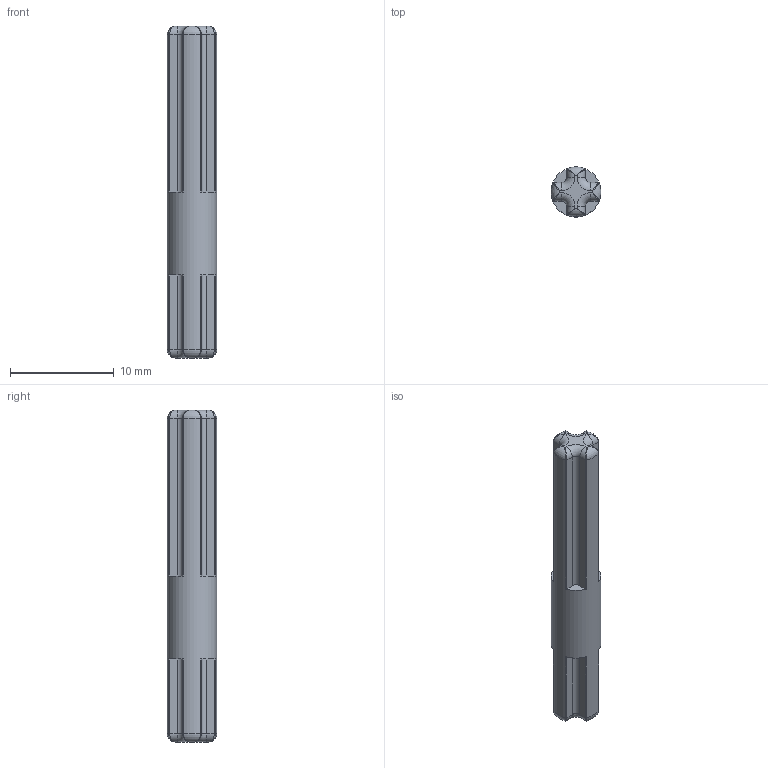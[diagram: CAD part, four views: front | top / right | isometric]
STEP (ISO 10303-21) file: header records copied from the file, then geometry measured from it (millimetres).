
FILE_DESCRIPTION(/* description */ ('Unknown'),/* implementation_level */ '2;1');
FILE_NAME(/* name */ 'Sand_4666999_JC',/* time_stamp */ '2025-07-22T00:04:57+02:00',/* author */ ('Unknown'),/* organization */ ('Unknown'),/* preprocessor_version */ 'ST-DEVELOPER v19.4',/* originating_system */ 'Solid Edge',/* authorisation */ 'Unknown');
FILE_SCHEMA (('AUTOMOTIVE_DESIGN {1 0 10303 214 3 1 1}'));
Length unit declared in the file: millimetre
Products named in the file (1): Sand_4666999_JC
Bounding box: 4.79 x 4.79 x 32 mm (x, y, z)
Volume: 472.4 mm3; surface area: 552.1 mm2
Topology: 1 solids, 1 shells, 99 faces, 241 edges, 128 vertices
Faces by surface type: cylinder 41, plane 26, torus 16, bspline 16
Full cylindrical faces by diameter (mm): 4.8 x1
Entity records: 2976 total; most frequent: CARTESIAN_POINT 804, DIRECTION 456, ORIENTED_EDGE 448, EDGE_CURVE 224, AXIS2_PLACEMENT_3D 180, VERTEX_POINT 128, EDGE_LOOP 100, FACE_BOUND 100
